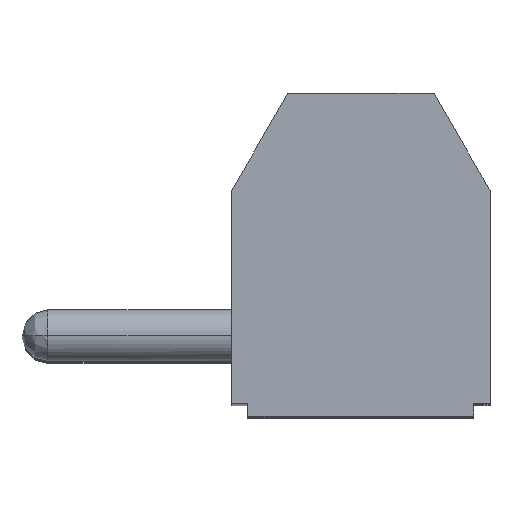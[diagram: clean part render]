
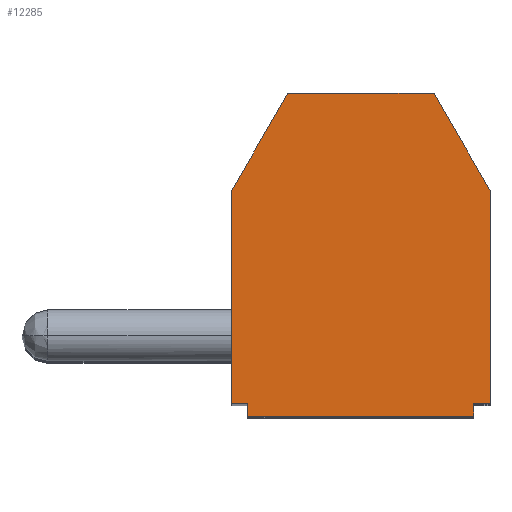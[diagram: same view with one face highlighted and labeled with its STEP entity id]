
A CAD part, top view. The second image highlights one B-rep face of the part: STEP entity #12285.
In plain terms, the highlighted planar face has unit normal (0, 0, 1).
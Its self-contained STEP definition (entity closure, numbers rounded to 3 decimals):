
#11446 = VERTEX_POINT ( 'NONE', #22190 ) ;
#11500 = EDGE_CURVE ( 'NONE', #11524, #11446, #22285, .T. ) ;
#11524 = VERTEX_POINT ( 'NONE', #22365 ) ;
#11828 = VERTEX_POINT ( 'NONE', #22833 ) ;
#11830 = EDGE_CURVE ( 'NONE', #11844, #11828, #22832, .T. ) ;
#11837 = VERTEX_POINT ( 'NONE', #22824 ) ;
#11839 = EDGE_CURVE ( 'NONE', #11446, #11837, #22823, .T. ) ;
#11844 = VERTEX_POINT ( 'NONE', #22878 ) ;
#11846 = EDGE_CURVE ( 'NONE', #11837, #11844, #22877, .T. ) ;
#11951 = VERTEX_POINT ( 'NONE', #22902 ) ;
#11956 = EDGE_CURVE ( 'NONE', #11951, #11965, #22897, .T. ) ;
#11965 = VERTEX_POINT ( 'NONE', #22946 ) ;
#11971 = VERTEX_POINT ( 'NONE', #22936 ) ;
#11973 = EDGE_CURVE ( 'NONE', #11965, #11971, #22935, .T. ) ;
#12040 = EDGE_CURVE ( 'NONE', #11828, #11951, #22967, .T. ) ;
#12249 = EDGE_CURVE ( 'NONE', #12250, #11524, #23201, .T. ) ;
#12250 = VERTEX_POINT ( 'NONE', #23197 ) ;
#12269 = ORIENTED_EDGE ( 'NONE', *, *, #11500, .T. ) ;
#12270 = ORIENTED_EDGE ( 'NONE', *, *, #11839, .T. ) ;
#12271 = ORIENTED_EDGE ( 'NONE', *, *, #11846, .T. ) ;
#12272 = ORIENTED_EDGE ( 'NONE', *, *, #11830, .T. ) ;
#12273 = ORIENTED_EDGE ( 'NONE', *, *, #12040, .T. ) ;
#12274 = ORIENTED_EDGE ( 'NONE', *, *, #11956, .T. ) ;
#12275 = ORIENTED_EDGE ( 'NONE', *, *, #11973, .T. ) ;
#12285 = ADVANCED_FACE ( 'NONE', ( #23186 ), #23185, .T. ) ;
#12286 = EDGE_LOOP ( 'NONE', ( #12287, #12291, #12293, #12269, #12270, #12271, #12272, #12273, #12274, #12275 ) ) ;
#12287 = ORIENTED_EDGE ( 'NONE', *, *, #12288, .F. ) ;
#12288 = EDGE_CURVE ( 'NONE', #12290, #11971, #23246, .T. ) ;
#12290 = VERTEX_POINT ( 'NONE', #23242 ) ;
#12291 = ORIENTED_EDGE ( 'NONE', *, *, #12292, .F. ) ;
#12292 = EDGE_CURVE ( 'NONE', #12250, #12290, #23241, .T. ) ;
#12293 = ORIENTED_EDGE ( 'NONE', *, *, #12249, .T. ) ;
#22190 = CARTESIAN_POINT ( 'NONE',  ( -3.062, -3.245, 0. ) ) ;
#22282 = DIRECTION ( 'NONE',  ( 0., -1., 0. ) ) ;
#22283 = VECTOR ( 'NONE', #22282, 1000. ) ;
#22284 = CARTESIAN_POINT ( 'NONE',  ( -3.062, -3.045, 0. ) ) ;
#22285 = LINE ( 'NONE', #22284, #22283 ) ;
#22365 = CARTESIAN_POINT ( 'NONE',  ( -3.062, -2.845, 0. ) ) ;
#22820 = DIRECTION ( 'NONE',  ( 1., 0., 0. ) ) ;
#22821 = VECTOR ( 'NONE', #22820, 1000. ) ;
#22822 = CARTESIAN_POINT ( 'NONE',  ( 0.438, -3.245, 0. ) ) ;
#22823 = LINE ( 'NONE', #22822, #22821 ) ;
#22824 = CARTESIAN_POINT ( 'NONE',  ( 3.938, -3.245, 0. ) ) ;
#22829 = DIRECTION ( 'NONE',  ( 1., 0., 0. ) ) ;
#22830 = VECTOR ( 'NONE', #22829, 1000. ) ;
#22831 = CARTESIAN_POINT ( 'NONE',  ( 0.438, -2.845, 0. ) ) ;
#22832 = LINE ( 'NONE', #22831, #22830 ) ;
#22833 = CARTESIAN_POINT ( 'NONE',  ( 4.438, -2.845, 0. ) ) ;
#22874 = DIRECTION ( 'NONE',  ( 0., 1., 0. ) ) ;
#22875 = VECTOR ( 'NONE', #22874, 1000. ) ;
#22876 = CARTESIAN_POINT ( 'NONE',  ( 3.938, 1.755, 0. ) ) ;
#22877 = LINE ( 'NONE', #22876, #22875 ) ;
#22878 = CARTESIAN_POINT ( 'NONE',  ( 3.938, -2.845, 0. ) ) ;
#22894 = DIRECTION ( 'NONE',  ( -0.5, 0.866, 0. ) ) ;
#22895 = VECTOR ( 'NONE', #22894, 1000. ) ;
#22896 = CARTESIAN_POINT ( 'NONE',  ( 4.438, 3.755, 0. ) ) ;
#22897 = LINE ( 'NONE', #22896, #22895 ) ;
#22902 = CARTESIAN_POINT ( 'NONE',  ( 4.438, 3.755, 0. ) ) ;
#22932 = DIRECTION ( 'NONE',  ( -1., 0., 0. ) ) ;
#22933 = VECTOR ( 'NONE', #22932, 1000. ) ;
#22934 = CARTESIAN_POINT ( 'NONE',  ( 0.438, 6.755, 0. ) ) ;
#22935 = LINE ( 'NONE', #22934, #22933 ) ;
#22936 = CARTESIAN_POINT ( 'NONE',  ( -1.83, 6.755, 0. ) ) ;
#22946 = CARTESIAN_POINT ( 'NONE',  ( 2.706, 6.755, 0. ) ) ;
#22964 = DIRECTION ( 'NONE',  ( 0., 1., 0. ) ) ;
#22965 = VECTOR ( 'NONE', #22964, 1000. ) ;
#22966 = CARTESIAN_POINT ( 'NONE',  ( 4.438, 1.755, 0. ) ) ;
#22967 = LINE ( 'NONE', #22966, #22965 ) ;
#23181 = DIRECTION ( 'NONE',  ( 1., 0., 0. ) ) ;
#23182 = DIRECTION ( 'NONE',  ( 0., 0., 1. ) ) ;
#23183 = CARTESIAN_POINT ( 'NONE',  ( -3.562, -3.245, 0. ) ) ;
#23184 = AXIS2_PLACEMENT_3D ( 'NONE', #23183, #23182, #23181 ) ;
#23185 = PLANE ( 'NONE',  #23184 ) ;
#23186 = FACE_OUTER_BOUND ( 'NONE', #12286, .T. ) ;
#23197 = CARTESIAN_POINT ( 'NONE',  ( -3.562, -2.845, 0. ) ) ;
#23198 = DIRECTION ( 'NONE',  ( 1., 0., 0. ) ) ;
#23199 = VECTOR ( 'NONE', #23198, 1000. ) ;
#23200 = CARTESIAN_POINT ( 'NONE',  ( 0.438, -2.845, 0. ) ) ;
#23201 = LINE ( 'NONE', #23200, #23199 ) ;
#23238 = DIRECTION ( 'NONE',  ( 0., 1., 0. ) ) ;
#23239 = VECTOR ( 'NONE', #23238, 1000. ) ;
#23240 = CARTESIAN_POINT ( 'NONE',  ( -3.562, 0.455, 0. ) ) ;
#23241 = LINE ( 'NONE', #23240, #23239 ) ;
#23242 = CARTESIAN_POINT ( 'NONE',  ( -3.562, 3.755, 0. ) ) ;
#23243 = DIRECTION ( 'NONE',  ( 0.5, 0.866, 0. ) ) ;
#23244 = VECTOR ( 'NONE', #23243, 1000. ) ;
#23245 = CARTESIAN_POINT ( 'NONE',  ( -2.696, 5.255, 0. ) ) ;
#23246 = LINE ( 'NONE', #23245, #23244 ) ;
